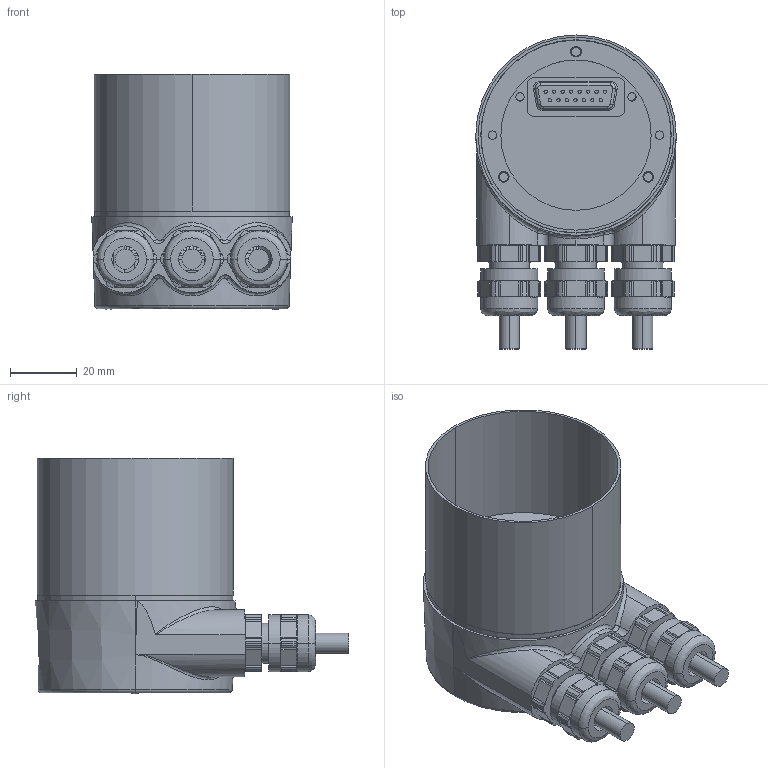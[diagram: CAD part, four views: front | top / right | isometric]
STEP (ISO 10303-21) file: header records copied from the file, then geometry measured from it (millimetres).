
FILE_DESCRIPTION (( 'STEP AP203' ), '1' );
FILE_NAME ('Drawing-OC-5-TC-430-SZM-HCCNNN-Y-H3E-N.STEP', '2013-12-02T10:52:49', ( 'Admin' ), ( 'Microsoft' ), 'SwSTEP 2.0', 'SolidWorks 2006104', '' );
FILE_SCHEMA (( 'CONFIG_CONTROL_DESIGN' ));
Length unit declared in the file: centimetre
Products named in the file (13): Drawing-OC-5-TC-430-SZM-HCCNNN-Y_Standard; Housing XC-5-TU-410-SNM-NNN-NNN-N_10016007_46W3602_01_Standard; Connection cap_CanOpen_3xM12_H3E_Standard; Cap OCD-ll Fieldbus standard_10021244_46W4018-00_Standard; Connection_cap_46W3253_32460635_05_Machined Part; Screw M3 X 6 torx cylinder head V2A Polylock_38331085_Standard; CAN-BUS PCB Connection cap  DO2000-B2-ROHS_0246369228_Standard; Screw M3 X 30 slotted cylinder head V2A_21052030_Standard; Label_Profibus_Standard; Assembly cable gland Pflitsch_bg212_va_2_03; cable 6mm _Standard; Cable gland M12x1.5 HI_PFLITSCH bg212 va; Drawing-OC-5-TC-430-SZM-HCCNNN-Y-H3E-N
Assembly tree (14 placements, depth 4):
  Screw M3 X 6 torx cylinder head V2A Polylock_38331085_Standard
  Drawing-OC-5-TC-430-SZM-HCCNNN-Y-H3E-N
    Drawing-OC-5-TC-430-SZM-HCCNNN-Y_Standard
      Housing XC-5-TU-410-SNM-NNN-NNN-N_10016007_46W3602_01_Standard
      Cap OCD-ll Fieldbus standard_10021244_46W4018-00_Standard
    Connection cap_CanOpen_3xM12_H3E_Standard
      Connection_cap_46W3253_32460635_05_Machined Part
      Screw M3 X 30 slotted cylinder head V2A_21052030_Standard  x2
      Assembly cable gland Pflitsch_bg212_va_2_03  x3
        cable 6mm _Standard
        Cable gland M12x1.5 HI_PFLITSCH bg212 va
      Label_Profibus_Standard
      CAN-BUS PCB Connection cap  DO2000-B2-ROHS_0246369228_Standard
Bounding box: 60 x 94 x 70.6 mm (x, y, z)
Volume: 56825.8 mm3; surface area: 63082.2 mm2
Topology: 12 solids, 50 shells, 1357 faces, 4471 edges, 3193 vertices
Faces by surface type: plane 636, cylinder 479, cone 111, bspline 85, torus 46
Entity records: 72604 total; most frequent: CARTESIAN_POINT 39652, ORIENTED_EDGE 6291, DIRECTION 5977, EDGE_CURVE 3813, VERTEX_POINT 2767, VECTOR 2113, LINE 2113, AXIS2_PLACEMENT_3D 1932
